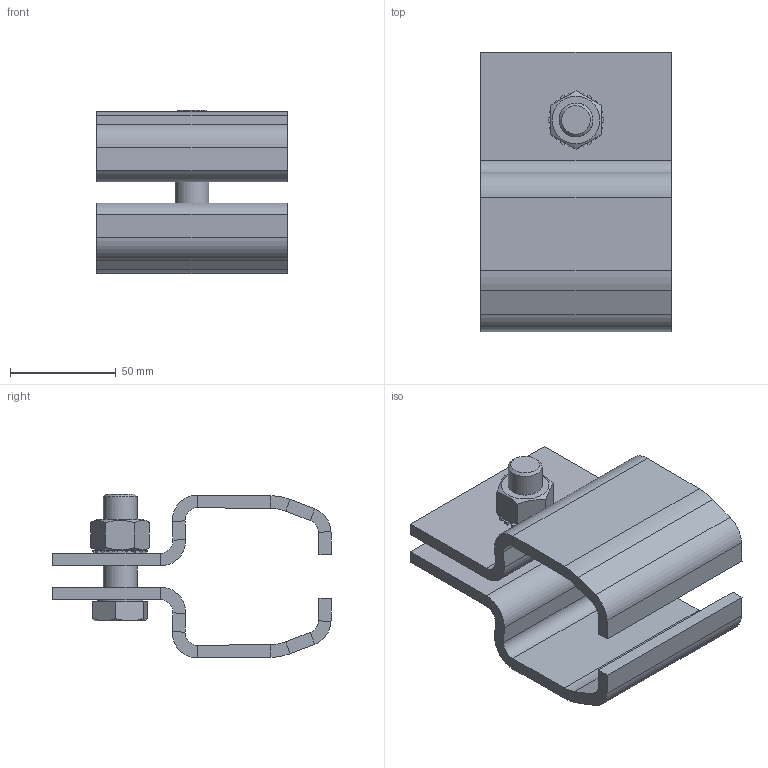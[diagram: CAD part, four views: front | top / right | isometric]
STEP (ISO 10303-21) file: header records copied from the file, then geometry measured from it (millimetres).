
FILE_DESCRIPTION(/* description */ ('Klemme Nr.3'),/* implementation_level */ '2;1');
FILE_NAME(/* name */ 'Q:\sge-ma\Produktmanagement-STB\STB\Workspace\TraceParts\Aufhängeklemme\010336740.stp',/* time_stamp */ '2018-02-21T11:35:27+01:00',/* author */ ('avschreier'),/* organization */ (''),/* preprocessor_version */ 'ST-DEVELOPER v16.1',/* originating_system */ 'Autodesk Inventor 2016',/* authorisation */ '');
FILE_SCHEMA (('CONFIG_CONTROL_DESIGN'));
Length unit declared in the file: millimetre
Products named in the file (5): 000302108; DIN_EN_ISO_4032-M16_en; DIN_6798-A_17_en; DIN_EN_ISO_4017-M16x50_en; 010336740
Assembly tree (5 placements, depth 2):
  010336740
    000302108  x2
    DIN_EN_ISO_4032-M16_en
    DIN_6798-A_17_en
    DIN_EN_ISO_4017-M16x50_en
Bounding box: 90 x 132 x 77.51 mm (x, y, z)
Volume: 195876.7 mm3; surface area: 72776.5 mm2
Topology: 5 solids, 5 shells, 223 faces, 557 edges, 346 vertices
Faces by surface type: plane 116, cylinder 95, cone 12
Full cylindrical faces by diameter (mm): 13.835 x1, 14.917 x1, 16 x1, 17 x3, 22 x1
Entity records: 5681 total; most frequent: DIRECTION 1012, CARTESIAN_POINT 1010, ORIENTED_EDGE 930, EDGE_CURVE 465, AXIS2_PLACEMENT_3D 377, VERTEX_POINT 303, LINE 258, VECTOR 258
